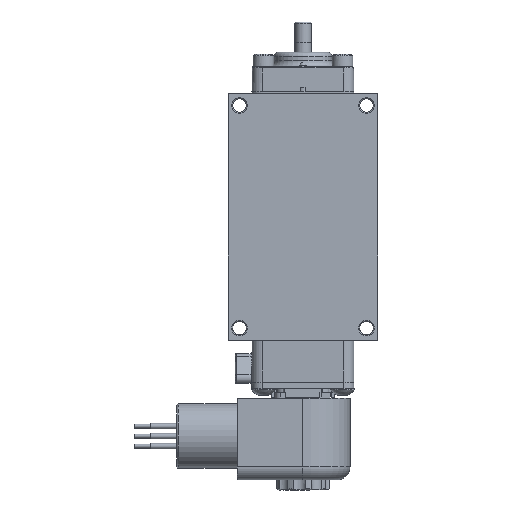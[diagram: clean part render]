
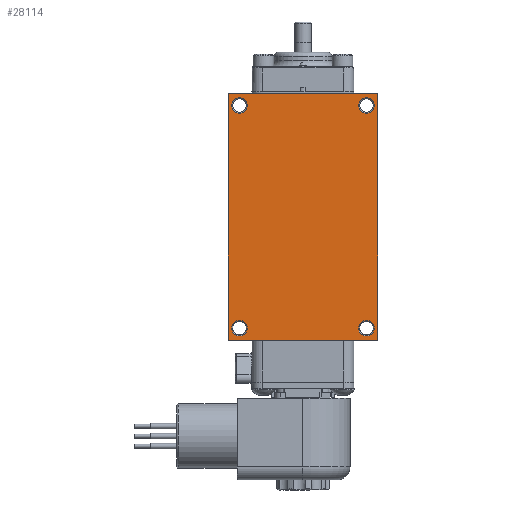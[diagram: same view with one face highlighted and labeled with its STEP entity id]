
A CAD part, front view. The second image highlights one B-rep face of the part: STEP entity #28114.
In plain terms, the highlighted planar face has unit normal (0, -1, 0).
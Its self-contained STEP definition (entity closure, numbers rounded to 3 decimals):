
#1126=FACE_BOUND('',#4356,.T.);
#1127=FACE_BOUND('',#4357,.T.);
#1128=FACE_BOUND('',#4358,.T.);
#1129=FACE_BOUND('',#4359,.T.);
#1556=PLANE('',#30550);
#2664=FACE_OUTER_BOUND('',#4355,.T.);
#4355=EDGE_LOOP('',(#21002,#21003,#21004,#21005));
#4356=EDGE_LOOP('',(#21006));
#4357=EDGE_LOOP('',(#21007));
#4358=EDGE_LOOP('',(#21008));
#4359=EDGE_LOOP('',(#21009));
#6174=CIRCLE('',#30539,0.296);
#6176=CIRCLE('',#30543,0.296);
#6178=CIRCLE('',#30547,0.296);
#6180=CIRCLE('',#30551,0.296);
#7789=LINE('',#48962,#9792);
#7790=LINE('',#48964,#9793);
#7791=LINE('',#48966,#9794);
#7792=LINE('',#48967,#9795);
#9792=VECTOR('',#36013,1.);
#9793=VECTOR('',#36014,1.);
#9794=VECTOR('',#36015,1.);
#9795=VECTOR('',#36016,1.);
#12067=VERTEX_POINT('',#48936);
#12069=VERTEX_POINT('',#48944);
#12071=VERTEX_POINT('',#48952);
#12073=VERTEX_POINT('',#48960);
#12074=VERTEX_POINT('',#48961);
#12075=VERTEX_POINT('',#48963);
#12076=VERTEX_POINT('',#48965);
#12077=VERTEX_POINT('',#48968);
#15285=EDGE_CURVE('',#12067,#12067,#6174,.T.);
#15289=EDGE_CURVE('',#12069,#12069,#6176,.T.);
#15293=EDGE_CURVE('',#12071,#12071,#6178,.T.);
#15297=EDGE_CURVE('',#12073,#12074,#7789,.T.);
#15298=EDGE_CURVE('',#12075,#12073,#7790,.T.);
#15299=EDGE_CURVE('',#12076,#12075,#7791,.T.);
#15300=EDGE_CURVE('',#12074,#12076,#7792,.T.);
#15301=EDGE_CURVE('',#12077,#12077,#6180,.T.);
#21002=ORIENTED_EDGE('',*,*,#15297,.F.);
#21003=ORIENTED_EDGE('',*,*,#15298,.F.);
#21004=ORIENTED_EDGE('',*,*,#15299,.F.);
#21005=ORIENTED_EDGE('',*,*,#15300,.F.);
#21006=ORIENTED_EDGE('',*,*,#15293,.F.);
#21007=ORIENTED_EDGE('',*,*,#15285,.F.);
#21008=ORIENTED_EDGE('',*,*,#15289,.F.);
#21009=ORIENTED_EDGE('',*,*,#15301,.F.);
#28114=ADVANCED_FACE('',(#2664,#1126,#1127,#1128,#1129),#1556,.F.);
#30539=AXIS2_PLACEMENT_3D('',#48937,#35983,#35984);
#30543=AXIS2_PLACEMENT_3D('',#48945,#35993,#35994);
#30547=AXIS2_PLACEMENT_3D('',#48953,#36003,#36004);
#30550=AXIS2_PLACEMENT_3D('',#48959,#36011,#36012);
#30551=AXIS2_PLACEMENT_3D('',#48969,#36017,#36018);
#35983=DIRECTION('center_axis',(0.,-1.,0.));
#35984=DIRECTION('ref_axis',(1.,0.,0.));
#35993=DIRECTION('center_axis',(0.,-1.,0.));
#35994=DIRECTION('ref_axis',(1.,0.,0.));
#36003=DIRECTION('center_axis',(0.,-1.,0.));
#36004=DIRECTION('ref_axis',(1.,0.,0.));
#36011=DIRECTION('center_axis',(0.,1.,0.));
#36012=DIRECTION('ref_axis',(0.,0.,1.));
#36013=DIRECTION('',(0.,0.,-1.));
#36014=DIRECTION('',(1.,0.,0.));
#36015=DIRECTION('',(0.,0.,1.));
#36016=DIRECTION('',(-1.,0.,0.));
#36017=DIRECTION('center_axis',(0.,-1.,0.));
#36018=DIRECTION('ref_axis',(1.,0.,0.));
#48936=CARTESIAN_POINT('',(2.125,-1.636,-4.247));
#48937=CARTESIAN_POINT('Origin',(2.421,-1.636,-4.247));
#48944=CARTESIAN_POINT('',(-2.717,-1.636,-4.247));
#48945=CARTESIAN_POINT('Origin',(-2.421,-1.636,-4.247));
#48952=CARTESIAN_POINT('',(-2.717,-1.636,4.247));
#48953=CARTESIAN_POINT('Origin',(-2.421,-1.636,4.247));
#48959=CARTESIAN_POINT('Origin',(0.,-1.636,0.));
#48960=CARTESIAN_POINT('',(2.858,-1.636,4.71));
#48961=CARTESIAN_POINT('',(2.858,-1.636,-4.71));
#48962=CARTESIAN_POINT('',(2.858,-1.636,-4.71));
#48963=CARTESIAN_POINT('',(-2.858,-1.636,4.71));
#48964=CARTESIAN_POINT('',(2.858,-1.636,4.71));
#48965=CARTESIAN_POINT('',(-2.858,-1.636,-4.71));
#48966=CARTESIAN_POINT('',(-2.858,-1.636,4.71));
#48967=CARTESIAN_POINT('',(-2.858,-1.636,-4.71));
#48968=CARTESIAN_POINT('',(2.125,-1.636,4.247));
#48969=CARTESIAN_POINT('Origin',(2.421,-1.636,4.247));
